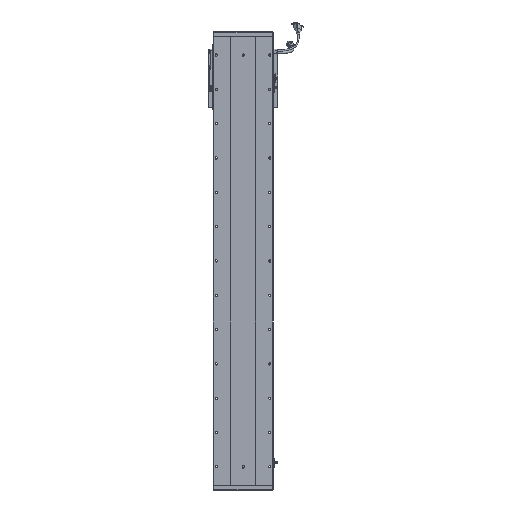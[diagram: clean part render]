
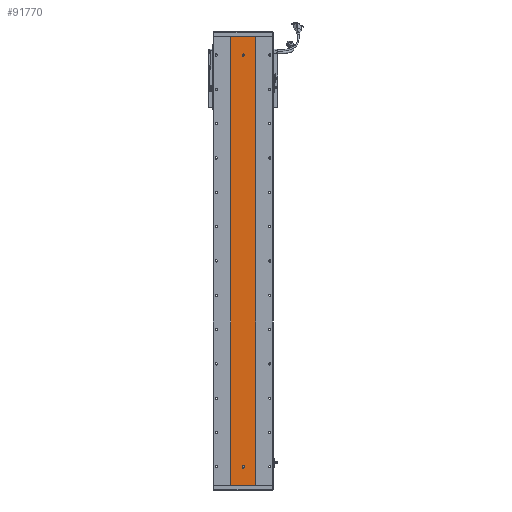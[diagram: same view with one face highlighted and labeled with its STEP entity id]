
A CAD part, front view. The second image highlights one B-rep face of the part: STEP entity #91770.
In plain terms, the highlighted planar face has unit normal (0, -1, 0).
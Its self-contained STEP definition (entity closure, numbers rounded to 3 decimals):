
#475 = CARTESIAN_POINT ( 'NONE',  ( 3244.748, 1415.701, 1307. ) ) ;
#986 = EDGE_LOOP ( 'NONE', ( #73570, #86074, #25333, #7798 ) ) ;
#1153 = DIRECTION ( 'NONE',  ( 0., -1., 0. ) ) ;
#1776 = DIRECTION ( 'NONE',  ( 0., 0., -1. ) ) ;
#1988 = CIRCLE ( 'NONE', #21792, 3. ) ;
#2151 = CIRCLE ( 'NONE', #12214, 3. ) ;
#2916 = ORIENTED_EDGE ( 'NONE', *, *, #39922, .F. ) ;
#2945 = VERTEX_POINT ( 'NONE', #40730 ) ;
#3600 = CARTESIAN_POINT ( 'NONE',  ( 3277.529, 1415.701, 52. ) ) ;
#5395 = CARTESIAN_POINT ( 'NONE',  ( 3280.529, 1415.701, 52. ) ) ;
#5589 = EDGE_CURVE ( 'NONE', #77769, #90673, #64460, .T. ) ;
#7361 = AXIS2_PLACEMENT_3D ( 'NONE', #5395, #1153, #1776 ) ;
#7798 = ORIENTED_EDGE ( 'NONE', *, *, #52209, .T. ) ;
#9169 = CARTESIAN_POINT ( 'NONE',  ( 3283.529, 1415.701, 52. ) ) ;
#10656 = VERTEX_POINT ( 'NONE', #75614 ) ;
#12210 = CARTESIAN_POINT ( 'NONE',  ( 3316.311, 1415.701, 0. ) ) ;
#12214 = AXIS2_PLACEMENT_3D ( 'NONE', #13351, #49868, #20470 ) ;
#13351 = CARTESIAN_POINT ( 'NONE',  ( 3280.529, 1415.701, 1253.5 ) ) ;
#20251 = AXIS2_PLACEMENT_3D ( 'NONE', #56884, #71801, #80516 ) ;
#20470 = DIRECTION ( 'NONE',  ( 0., 0., -1. ) ) ;
#21024 = VECTOR ( 'NONE', #32674, 1000. ) ;
#21792 = AXIS2_PLACEMENT_3D ( 'NONE', #70356, #93301, #48005 ) ;
#23639 = VERTEX_POINT ( 'NONE', #12210 ) ;
#24846 = VECTOR ( 'NONE', #41031, 1000. ) ;
#25333 = ORIENTED_EDGE ( 'NONE', *, *, #94509, .F. ) ;
#25629 = LINE ( 'NONE', #77015, #21024 ) ;
#26794 = EDGE_LOOP ( 'NONE', ( #32577, #51806 ) ) ;
#28814 = CARTESIAN_POINT ( 'NONE',  ( 3280.529, 1415.701, 49. ) ) ;
#29031 = LINE ( 'NONE', #94471, #46397 ) ;
#29421 = LINE ( 'NONE', #76478, #49073 ) ;
#30142 = ORIENTED_EDGE ( 'NONE', *, *, #56550, .F. ) ;
#32577 = ORIENTED_EDGE ( 'NONE', *, *, #65566, .F. ) ;
#32674 = DIRECTION ( 'NONE',  ( 0., 0., -1. ) ) ;
#35274 = LINE ( 'NONE', #49062, #24846 ) ;
#35581 = LINE ( 'NONE', #72398, #39030 ) ;
#39030 = VECTOR ( 'NONE', #79846, 1000. ) ;
#39922 = EDGE_CURVE ( 'NONE', #64985, #48474, #71051, .T. ) ;
#40730 = CARTESIAN_POINT ( 'NONE',  ( 3316.311, 1415.701, 1307. ) ) ;
#41031 = DIRECTION ( 'NONE',  ( 0., 0., -1. ) ) ;
#41881 = CARTESIAN_POINT ( 'NONE',  ( 3280.529, 1415.701, 52. ) ) ;
#44277 = FACE_BOUND ( 'NONE', #75871, .T. ) ;
#46397 = VECTOR ( 'NONE', #79275, 1000. ) ;
#47549 = EDGE_CURVE ( 'NONE', #2945, #23639, #29031, .T. ) ;
#47567 = AXIS2_PLACEMENT_3D ( 'NONE', #475, #52201, #73295 ) ;
#48005 = DIRECTION ( 'NONE',  ( 0., 0., -1. ) ) ;
#48474 = VERTEX_POINT ( 'NONE', #28814 ) ;
#49062 = CARTESIAN_POINT ( 'NONE',  ( 3244.748, 1415.701, 1307. ) ) ;
#49073 = VECTOR ( 'NONE', #68686, 1000. ) ;
#49791 = CARTESIAN_POINT ( 'NONE',  ( 3244.748, 1415.701, 0. ) ) ;
#49868 = DIRECTION ( 'NONE',  ( 0., -1., 0. ) ) ;
#51086 = FACE_OUTER_BOUND ( 'NONE', #986, .T. ) ;
#51115 = CARTESIAN_POINT ( 'NONE',  ( 3283.529, 1415.701, 55. ) ) ;
#51690 = ORIENTED_EDGE ( 'NONE', *, *, #5589, .F. ) ;
#51806 = ORIENTED_EDGE ( 'NONE', *, *, #71378, .F. ) ;
#52163 = VERTEX_POINT ( 'NONE', #68533 ) ;
#52201 = DIRECTION ( 'NONE',  ( 0., 1., 0. ) ) ;
#52209 = EDGE_CURVE ( 'NONE', #85379, #78611, #35274, .T. ) ;
#53272 = DIRECTION ( 'NONE',  ( 0., 0., 1. ) ) ;
#55717 = AXIS2_PLACEMENT_3D ( 'NONE', #41881, #87124, #93608 ) ;
#56550 = EDGE_CURVE ( 'NONE', #48474, #77769, #79996, .T. ) ;
#56884 = CARTESIAN_POINT ( 'NONE',  ( 3280.529, 1415.701, 1253.5 ) ) ;
#59394 = ORIENTED_EDGE ( 'NONE', *, *, #69927, .F. ) ;
#64460 = LINE ( 'NONE', #90179, #86465 ) ;
#64985 = VERTEX_POINT ( 'NONE', #3600 ) ;
#65566 = EDGE_CURVE ( 'NONE', #10656, #92426, #92227, .T. ) ;
#67973 = CARTESIAN_POINT ( 'NONE',  ( 3280.529, 1415.701, 1256.5 ) ) ;
#68533 = CARTESIAN_POINT ( 'NONE',  ( 3277.529, 1415.701, 55. ) ) ;
#68686 = DIRECTION ( 'NONE',  ( 1., 0., 0. ) ) ;
#69927 = EDGE_CURVE ( 'NONE', #52163, #64985, #25629, .T. ) ;
#70356 = CARTESIAN_POINT ( 'NONE',  ( 3280.529, 1415.701, 55. ) ) ;
#70656 = CARTESIAN_POINT ( 'NONE',  ( 3244.748, 1415.701, 1307. ) ) ;
#70785 = FACE_BOUND ( 'NONE', #26794, .T. ) ;
#71051 = CIRCLE ( 'NONE', #55717, 3. ) ;
#71378 = EDGE_CURVE ( 'NONE', #92426, #10656, #2151, .T. ) ;
#71801 = DIRECTION ( 'NONE',  ( 0., -1., 0. ) ) ;
#72398 = CARTESIAN_POINT ( 'NONE',  ( 3244.748, 1415.701, 1307. ) ) ;
#73295 = DIRECTION ( 'NONE',  ( 0., 0., 1. ) ) ;
#73570 = ORIENTED_EDGE ( 'NONE', *, *, #90277, .T. ) ;
#73947 = PLANE ( 'NONE',  #47567 ) ;
#75614 = CARTESIAN_POINT ( 'NONE',  ( 3280.529, 1415.701, 1250.5 ) ) ;
#75871 = EDGE_LOOP ( 'NONE', ( #2916, #59394, #89304, #51690, #30142 ) ) ;
#76466 = EDGE_CURVE ( 'NONE', #90673, #52163, #1988, .T. ) ;
#76478 = CARTESIAN_POINT ( 'NONE',  ( 3244.748, 1415.701, 0. ) ) ;
#77015 = CARTESIAN_POINT ( 'NONE',  ( 3277.529, 1415.701, 55. ) ) ;
#77769 = VERTEX_POINT ( 'NONE', #9169 ) ;
#78611 = VERTEX_POINT ( 'NONE', #49791 ) ;
#79275 = DIRECTION ( 'NONE',  ( 0., 0., -1. ) ) ;
#79846 = DIRECTION ( 'NONE',  ( 1., 0., 0. ) ) ;
#79996 = CIRCLE ( 'NONE', #7361, 3. ) ;
#80516 = DIRECTION ( 'NONE',  ( 0., 0., -1. ) ) ;
#85379 = VERTEX_POINT ( 'NONE', #70656 ) ;
#86074 = ORIENTED_EDGE ( 'NONE', *, *, #47549, .F. ) ;
#86465 = VECTOR ( 'NONE', #53272, 1000. ) ;
#87124 = DIRECTION ( 'NONE',  ( 0., -1., 0. ) ) ;
#89304 = ORIENTED_EDGE ( 'NONE', *, *, #76466, .F. ) ;
#90179 = CARTESIAN_POINT ( 'NONE',  ( 3283.529, 1415.701, 55. ) ) ;
#90277 = EDGE_CURVE ( 'NONE', #78611, #23639, #29421, .T. ) ;
#90673 = VERTEX_POINT ( 'NONE', #51115 ) ;
#91770 = ADVANCED_FACE ( 'NONE', ( #44277, #70785, #51086 ), #73947, .F. ) ;
#92227 = CIRCLE ( 'NONE', #20251, 3. ) ;
#92426 = VERTEX_POINT ( 'NONE', #67973 ) ;
#93301 = DIRECTION ( 'NONE',  ( 0., -1., 0. ) ) ;
#93608 = DIRECTION ( 'NONE',  ( 0., 0., -1. ) ) ;
#94471 = CARTESIAN_POINT ( 'NONE',  ( 3316.311, 1415.701, 1307. ) ) ;
#94509 = EDGE_CURVE ( 'NONE', #85379, #2945, #35581, .T. ) ;
